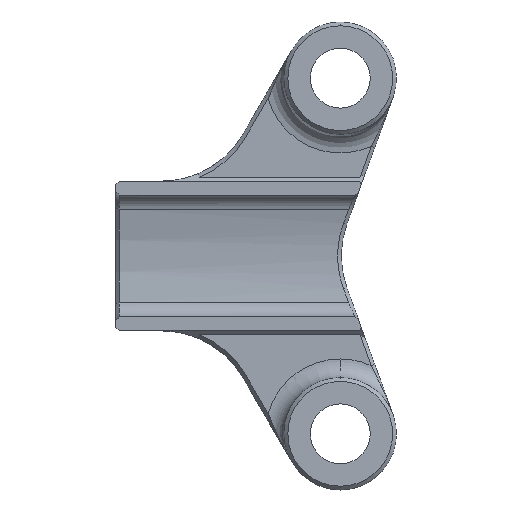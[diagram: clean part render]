
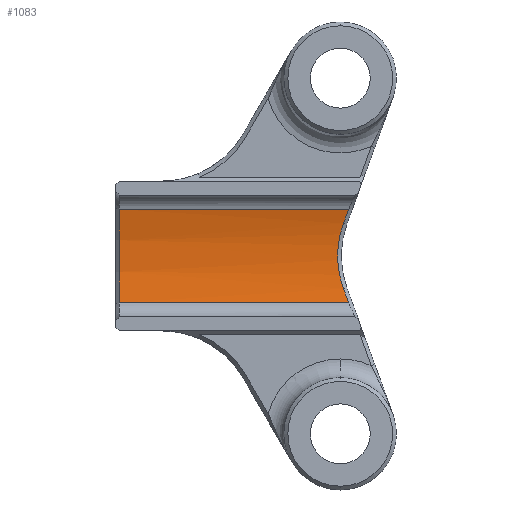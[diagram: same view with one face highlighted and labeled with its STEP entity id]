
A CAD part, front view. The second image highlights one B-rep face of the part: STEP entity #1083.
In plain terms, the highlighted cylindrical face has radius 10.292 mm (diameter 20.583 mm), a partial arc.
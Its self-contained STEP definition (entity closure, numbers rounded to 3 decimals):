
#78 = CYLINDRICAL_SURFACE ( 'NONE', #604, 10.292 ) ;
#96 = ORIENTED_EDGE ( 'NONE', *, *, #2328, .T. ) ;
#135 = CARTESIAN_POINT ( 'NONE',  ( 12.066, 1.399, -1.466 ) ) ;
#189 = CARTESIAN_POINT ( 'NONE',  ( 0.2, -8.792, 0. ) ) ;
#194 = CARTESIAN_POINT ( 'NONE',  ( 12.447, 1.194, 2.492 ) ) ;
#216 = EDGE_CURVE ( 'NONE', #712, #1015, #752, .T. ) ;
#265 = VERTEX_POINT ( 'NONE', #1155 ) ;
#352 = DIRECTION ( 'NONE',  ( 0., 0., 1. ) ) ;
#368 = CARTESIAN_POINT ( 'NONE',  ( 15., 1.194, -2.492 ) ) ;
#427 = CARTESIAN_POINT ( 'NONE',  ( 0.2, 1.194, -2.492 ) ) ;
#429 = CARTESIAN_POINT ( 'NONE',  ( 12.169, 1.351, 1.745 ) ) ;
#478 = DIRECTION ( 'NONE',  ( -1., 0., 0. ) ) ;
#498 = ORIENTED_EDGE ( 'NONE', *, *, #216, .T. ) ;
#604 = AXIS2_PLACEMENT_3D ( 'NONE', #3163, #1408, #352 ) ;
#679 = VERTEX_POINT ( 'NONE', #1477 ) ;
#684 = CARTESIAN_POINT ( 'NONE',  ( 11.856, 1.5, 0.594 ) ) ;
#712 = VERTEX_POINT ( 'NONE', #1005 ) ;
#752 = B_SPLINE_CURVE_WITH_KNOTS ( 'NONE', 3,
 ( #1991, #135, #978, #2206, #1665, #2715, #2445, #684, #2983, #1719 ),
 .UNSPECIFIED., .F., .F.,
 ( 4, 2, 2, 2, 4 ),
 ( 0., 0.25, 0.375, 0.5, 1. ),
 .UNSPECIFIED. ) ;
#814 = EDGE_CURVE ( 'NONE', #1993, #265, #3117, .T. ) ;
#901 = CARTESIAN_POINT ( 'NONE',  ( 12.268, 1.305, 2.01 ) ) ;
#904 = CARTESIAN_POINT ( 'NONE',  ( 12.447, 1.194, -2.492 ) ) ;
#930 = CIRCLE ( 'NONE', #2829, 10.292 ) ;
#978 = CARTESIAN_POINT ( 'NONE',  ( 11.988, 1.436, -1.182 ) ) ;
#982 = CARTESIAN_POINT ( 'NONE',  ( 12.268, 1.305, -2.01 ) ) ;
#1005 = CARTESIAN_POINT ( 'NONE',  ( 12.169, 1.351, -1.745 ) ) ;
#1015 = VERTEX_POINT ( 'NONE', #2776 ) ;
#1034 = ORIENTED_EDGE ( 'NONE', *, *, #1416, .T. ) ;
#1053 = CARTESIAN_POINT ( 'NONE',  ( 15., 1.194, 2.492 ) ) ;
#1083 = ADVANCED_FACE ( 'NONE', ( #2980 ), #78, .F. ) ;
#1100 = ORIENTED_EDGE ( 'NONE', *, *, #814, .T. ) ;
#1142 = EDGE_CURVE ( 'NONE', #1257, #679, #1881, .T. ) ;
#1155 = CARTESIAN_POINT ( 'NONE',  ( 0.2, 1.194, 2.492 ) ) ;
#1257 = VERTEX_POINT ( 'NONE', #427 ) ;
#1267 = ORIENTED_EDGE ( 'NONE', *, *, #2699, .T. ) ;
#1288 = B_SPLINE_CURVE_WITH_KNOTS ( 'NONE', 3,
 ( #429, #901, #1703, #194 ),
 .UNSPECIFIED., .F., .F.,
 ( 4, 4 ),
 ( 0., 1. ),
 .UNSPECIFIED. ) ;
#1293 = B_SPLINE_CURVE_WITH_KNOTS ( 'NONE', 3,
 ( #904, #2250, #982, #3278 ),
 .UNSPECIFIED., .F., .F.,
 ( 4, 4 ),
 ( 0., 1. ),
 .UNSPECIFIED. ) ;
#1408 = DIRECTION ( 'NONE',  ( -1., 0., 0. ) ) ;
#1416 = EDGE_CURVE ( 'NONE', #265, #1257, #930, .T. ) ;
#1477 = CARTESIAN_POINT ( 'NONE',  ( 12.447, 1.194, -2.492 ) ) ;
#1639 = VECTOR ( 'NONE', #2711, 1000. ) ;
#1665 = CARTESIAN_POINT ( 'NONE',  ( 11.889, 1.484, -0.598 ) ) ;
#1703 = CARTESIAN_POINT ( 'NONE',  ( 12.36, 1.252, 2.26 ) ) ;
#1719 = CARTESIAN_POINT ( 'NONE',  ( 12.169, 1.351, 1.745 ) ) ;
#1881 = LINE ( 'NONE', #368, #1639 ) ;
#1991 = CARTESIAN_POINT ( 'NONE',  ( 12.169, 1.351, -1.745 ) ) ;
#1993 = VERTEX_POINT ( 'NONE', #2216 ) ;
#2206 = CARTESIAN_POINT ( 'NONE',  ( 11.909, 1.474, -0.744 ) ) ;
#2216 = CARTESIAN_POINT ( 'NONE',  ( 12.447, 1.194, 2.492 ) ) ;
#2250 = CARTESIAN_POINT ( 'NONE',  ( 12.36, 1.252, -2.26 ) ) ;
#2328 = EDGE_CURVE ( 'NONE', #679, #712, #1293, .T. ) ;
#2445 = CARTESIAN_POINT ( 'NONE',  ( 11.856, 1.5, -0.149 ) ) ;
#2624 = DIRECTION ( 'NONE',  ( -1., 0., 0. ) ) ;
#2699 = EDGE_CURVE ( 'NONE', #1015, #1993, #1288, .T. ) ;
#2711 = DIRECTION ( 'NONE',  ( 1., 0., 0. ) ) ;
#2715 = CARTESIAN_POINT ( 'NONE',  ( 11.862, 1.497, -0.3 ) ) ;
#2722 = VECTOR ( 'NONE', #2624, 1000. ) ;
#2776 = CARTESIAN_POINT ( 'NONE',  ( 12.169, 1.351, 1.745 ) ) ;
#2829 = AXIS2_PLACEMENT_3D ( 'NONE', #189, #478, #3270 ) ;
#2980 = FACE_OUTER_BOUND ( 'NONE', #3078, .T. ) ;
#2983 = CARTESIAN_POINT ( 'NONE',  ( 11.962, 1.447, 1.185 ) ) ;
#3078 = EDGE_LOOP ( 'NONE', ( #3272, #96, #498, #1267, #1100, #1034 ) ) ;
#3117 = LINE ( 'NONE', #1053, #2722 ) ;
#3163 = CARTESIAN_POINT ( 'NONE',  ( 15., -8.792, 0. ) ) ;
#3270 = DIRECTION ( 'NONE',  ( 0., 0., 1. ) ) ;
#3272 = ORIENTED_EDGE ( 'NONE', *, *, #1142, .T. ) ;
#3278 = CARTESIAN_POINT ( 'NONE',  ( 12.169, 1.351, -1.745 ) ) ;
